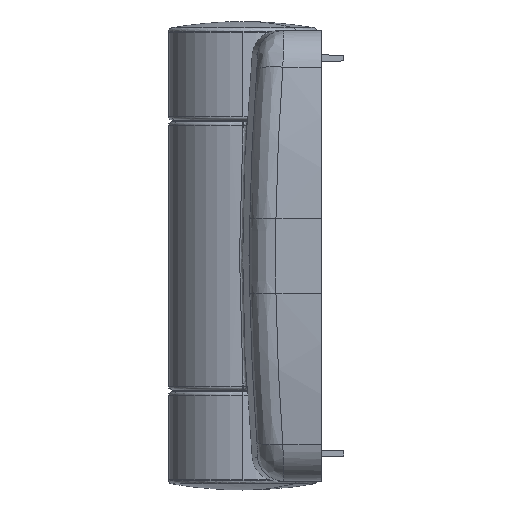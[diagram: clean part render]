
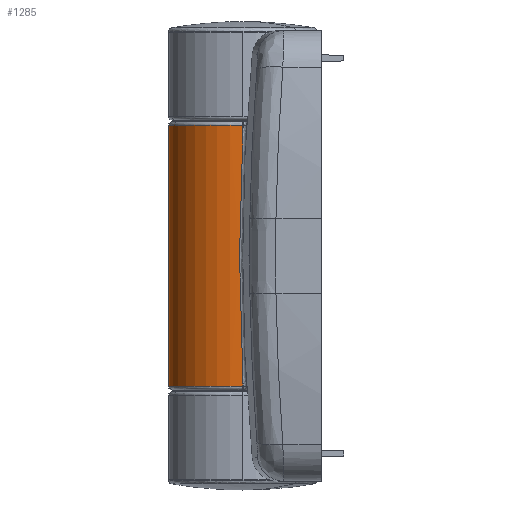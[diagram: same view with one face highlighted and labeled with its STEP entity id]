
A CAD part, left-side view. The second image highlights one B-rep face of the part: STEP entity #1285.
In plain terms, the highlighted cylindrical face has radius 10 mm (diameter 20 mm), a partial arc.
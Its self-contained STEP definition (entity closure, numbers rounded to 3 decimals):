
#1285=ADVANCED_FACE('NONE',(#3032),#3033,.T.);
#3032=FACE_OUTER_BOUND('',#6957,.T.);
#3033=CYLINDRICAL_SURFACE('',#6958,10.0);
#6957=EDGE_LOOP('',(#13121,#13122,#13123,#13124,#13125,#13126));
#6958=AXIS2_PLACEMENT_3D('',#13127,#13128,#13129);
#13121=ORIENTED_EDGE('',*,*,#18113,.T.);
#13122=ORIENTED_EDGE('',*,*,#18149,.T.);
#13123=ORIENTED_EDGE('',*,*,#18150,.T.);
#13124=ORIENTED_EDGE('',*,*,#18151,.T.);
#13125=ORIENTED_EDGE('',*,*,#18104,.F.);
#13126=ORIENTED_EDGE('',*,*,#18152,.F.);
#13127=CARTESIAN_POINT('',(0.,0.,-30.0));
#13128=DIRECTION('',(0.0,0.,-1.0));
#13129=DIRECTION('',(1.0,0.0,0.0));
#18104=EDGE_CURVE('NONE',#20974,#20982,#20983,.T.);
#18113=EDGE_CURVE('NONE',#20997,#20988,#20998,.T.);
#18149=EDGE_CURVE('NONE',#20988,#21057,#21058,.T.);
#18150=EDGE_CURVE('NONE',#21057,#21059,#21060,.T.);
#18151=EDGE_CURVE('NONE',#21059,#20982,#21061,.T.);
#18152=EDGE_CURVE('NONE',#20997,#20974,#21062,.T.);
#20974=VERTEX_POINT('NONE',#25727);
#20982=VERTEX_POINT('NONE',#25760);
#20983=CIRCLE('',#25761,10.0);
#20988=VERTEX_POINT('NONE',#25776);
#20997=VERTEX_POINT('NONE',#25798);
#20998=CIRCLE('',#25799,10.0);
#21057=VERTEX_POINT('NONE',#25889);
#21058=LINE('',#25890,#25891);
#21059=VERTEX_POINT('NONE',#25892);
#21060=B_SPLINE_CURVE_WITH_KNOTS('',3,(#25893,#25894,#25895,#25896,#25897),.UNSPECIFIED.,.F.,.F.,(4,1,4),(0.0,0.5,1.0),.UNSPECIFIED.);
#21061=LINE('',#25898,#25899);
#21062=LINE('',#25900,#25901);
#25727=CARTESIAN_POINT('',(10.0,0.,17.5));
#25760=CARTESIAN_POINT('',(-10.0,0.,17.5));
#25761=AXIS2_PLACEMENT_3D('',#32010,#32011,#32012);
#25776=CARTESIAN_POINT('',(-10.0,0.,-17.5));
#25798=CARTESIAN_POINT('',(10.0,0.,-17.5));
#25799=AXIS2_PLACEMENT_3D('',#32023,#32024,#32025);
#25889=CARTESIAN_POINT('',(-10.,0.,-17.023));
#25890=CARTESIAN_POINT('',(-10.0,0.,-30.0));
#25891=VECTOR('',#32079,1000.0);
#25892=CARTESIAN_POINT('',(-10.,0.,17.023));
#25893=CARTESIAN_POINT('',(-10.,0.,-17.023));
#25894=CARTESIAN_POINT('',(-10.0,0.307,-11.349));
#25895=CARTESIAN_POINT('',(-9.979,0.613,0.));
#25896=CARTESIAN_POINT('',(-10.0,0.307,11.349));
#25897=CARTESIAN_POINT('',(-10.,0.,17.023));
#25898=CARTESIAN_POINT('',(-10.0,0.,-30.0));
#25899=VECTOR('',#32080,1000.0);
#25900=CARTESIAN_POINT('',(10.0,0.,-30.0));
#25901=VECTOR('',#32081,1000.0);
#32010=CARTESIAN_POINT('',(0.,0.,17.5));
#32011=DIRECTION('',(0.,0.,1.0));
#32012=DIRECTION('',(-1.0,0.,0.));
#32023=CARTESIAN_POINT('',(0.,0.,-17.5));
#32024=DIRECTION('',(0.0,0.,1.0));
#32025=DIRECTION('',(1.0,0.0,0.0));
#32079=DIRECTION('',(0.,0.,1.0));
#32080=DIRECTION('',(0.,0.,1.0));
#32081=DIRECTION('',(0.,0.,1.0));
